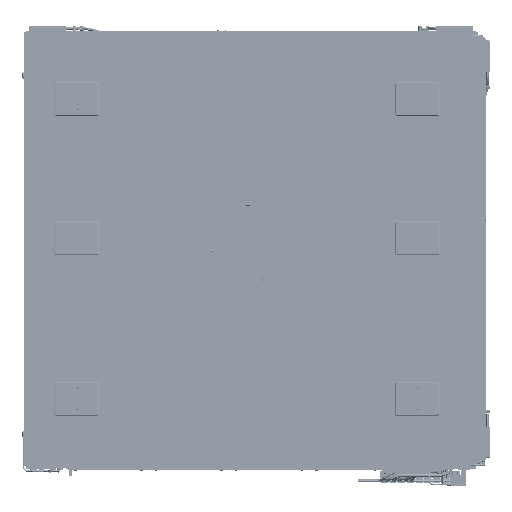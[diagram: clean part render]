
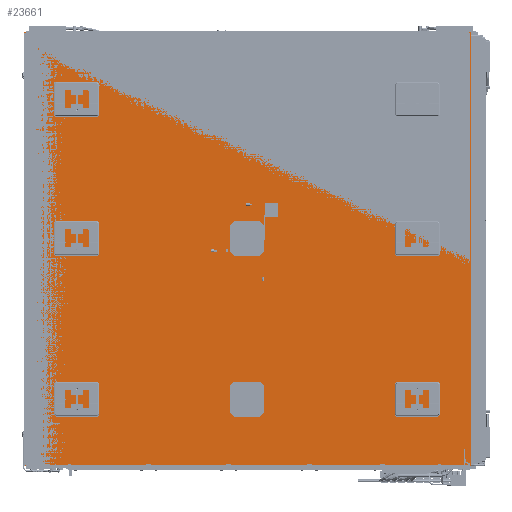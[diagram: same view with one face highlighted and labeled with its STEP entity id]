
A CAD part, front view. The second image highlights one B-rep face of the part: STEP entity #23661.
In plain terms, the highlighted planar face has unit normal (0, -1, 0) as drawn and (-1, 0, 0) by its records, which use the part's own axes.
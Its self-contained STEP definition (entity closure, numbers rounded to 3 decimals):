
#23661=ADVANCED_FACE('',(#39029),#30487,.T.);
#30487=PLANE('',#212033);
#39029=FACE_OUTER_BOUND('',#51152,.T.);
#51152=EDGE_LOOP('',(#83370,#83371,#83372,#83373));
#83370=ORIENTED_EDGE('',*,*,#128729,.T.);
#83371=ORIENTED_EDGE('',*,*,#128727,.T.);
#83372=ORIENTED_EDGE('',*,*,#128725,.T.);
#83373=ORIENTED_EDGE('',*,*,#128723,.T.);
#109920=VERTEX_POINT('',#334719);
#109921=VERTEX_POINT('',#334722);
#109922=VERTEX_POINT('',#334732);
#109923=VERTEX_POINT('',#334740);
#128723=EDGE_CURVE('',#109921,#109920,#141808,.T.);
#128725=EDGE_CURVE('',#109922,#109921,#141810,.T.);
#128727=EDGE_CURVE('',#109923,#109922,#141812,.T.);
#128729=EDGE_CURVE('',#109920,#109923,#141814,.T.);
#141808=B_SPLINE_CURVE_WITH_KNOTS('',1,(#334720,#334721),.UNSPECIFIED.,
 .F.,.F.,(2,2),(0.,1.),.UNSPECIFIED.);
#141810=B_SPLINE_CURVE_WITH_KNOTS('',3,(#334728,#334729,#334730,#334731),
 .UNSPECIFIED.,.F.,.F.,(4,4),(0.,1.),.UNSPECIFIED.);
#141812=B_SPLINE_CURVE_WITH_KNOTS('',1,(#334738,#334739),.UNSPECIFIED.,
 .F.,.F.,(2,2),(0.,1.),.UNSPECIFIED.);
#141814=B_SPLINE_CURVE_WITH_KNOTS('',1,(#334744,#334745),.UNSPECIFIED.,
 .F.,.F.,(2,2),(0.,1.),.UNSPECIFIED.);
#212033=AXIS2_PLACEMENT_3D('',#334747,#246386,#246387);
#246386=DIRECTION('',(-1.,0.,0.));
#246387=DIRECTION('',(0.,0.,1.));
#334719=CARTESIAN_POINT('',(4980.5,1104.7,-4094.));
#334720=CARTESIAN_POINT('',(4980.5,-1465.3,-4094.));
#334721=CARTESIAN_POINT('',(4980.5,1104.7,-4094.));
#334722=CARTESIAN_POINT('',(4980.5,-1465.3,-4094.));
#334728=CARTESIAN_POINT('',(4980.5,-1465.3,-6590.));
#334729=CARTESIAN_POINT('',(4980.5,-1465.3,-5758.));
#334730=CARTESIAN_POINT('',(4980.5,-1465.3,-4926.));
#334731=CARTESIAN_POINT('',(4980.5,-1465.3,-4094.));
#334732=CARTESIAN_POINT('',(4980.5,-1465.3,-6590.));
#334738=CARTESIAN_POINT('',(4980.5,1104.7,-6590.));
#334739=CARTESIAN_POINT('',(4980.5,-1465.3,-6590.));
#334740=CARTESIAN_POINT('',(4980.5,1104.7,-6590.));
#334744=CARTESIAN_POINT('',(4980.5,1104.7,-4094.));
#334745=CARTESIAN_POINT('',(4980.5,1104.7,-6590.));
#334747=CARTESIAN_POINT('',(4980.5,-180.3,-5342.));
